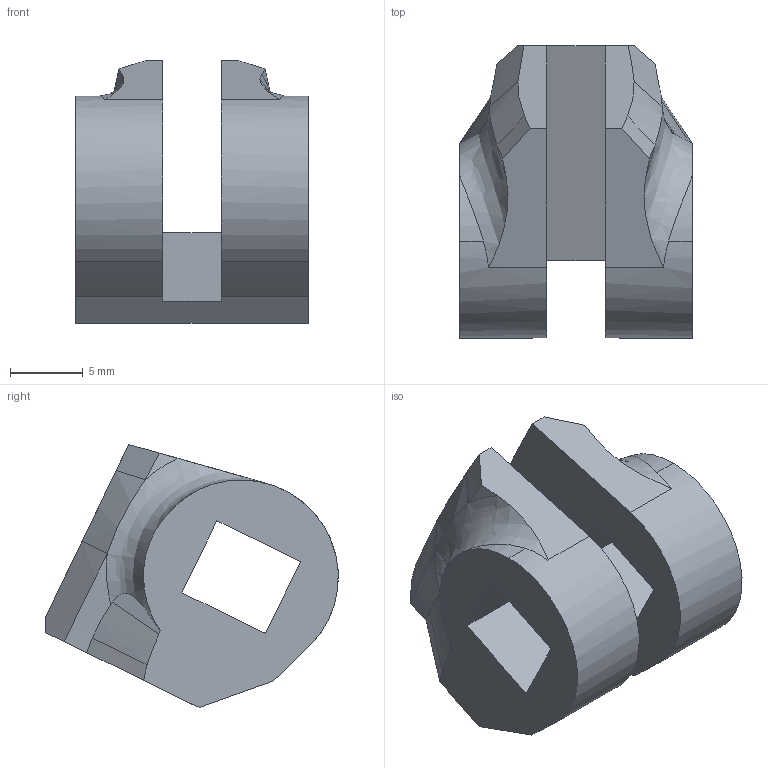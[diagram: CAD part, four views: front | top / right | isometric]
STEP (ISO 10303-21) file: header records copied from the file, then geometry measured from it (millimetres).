
FILE_DESCRIPTION (( 'STEP AP214' ), '1' );
FILE_NAME ('B1-pelvis-Standard.step', '2023-08-03T13:48:16', ( '' ), ( '' ), 'SwSTEP 2.0', 'SolidWorks 2020', '' );
FILE_SCHEMA (( 'AUTOMOTIVE_DESIGN' ));
Length unit declared in the file: millimetre
Products named in the file (1): B1-pelvis-Standard
Bounding box: 16 x 20.1 x 18.08 mm (x, y, z)
Volume: 2240.8 mm3; surface area: 1774.8 mm2
Topology: 1 solids, 1 shells, 44 faces, 124 edges, 82 vertices
Faces by surface type: plane 20, bspline 18, cylinder 6
Entity records: 5674 total; most frequent: CARTESIAN_POINT 4661, ORIENTED_EDGE 248, DIRECTION 126, EDGE_CURVE 124, VERTEX_POINT 82, B_SPLINE_CURVE_WITH_KNOTS 62, VECTOR 52, LINE 52
